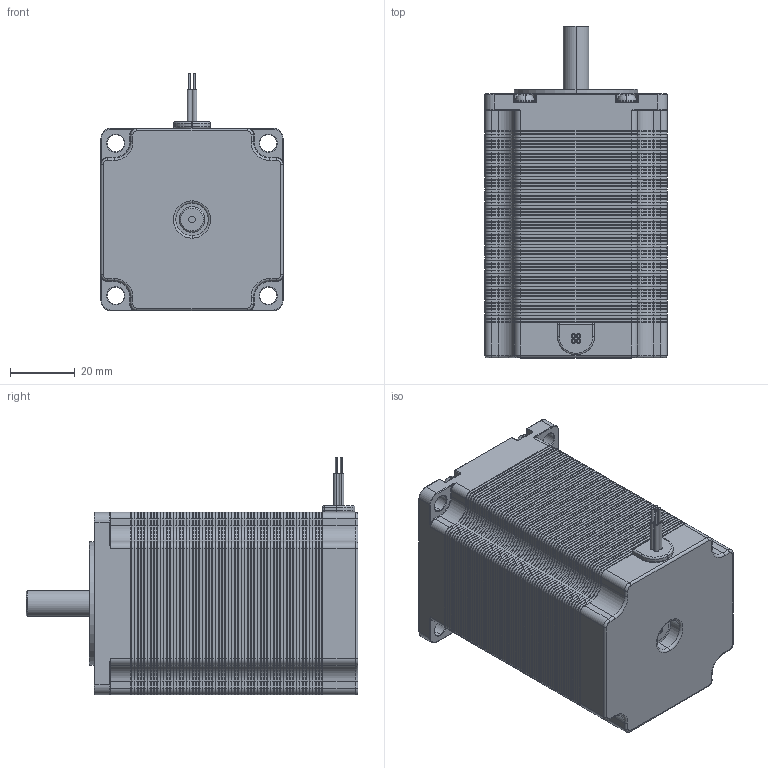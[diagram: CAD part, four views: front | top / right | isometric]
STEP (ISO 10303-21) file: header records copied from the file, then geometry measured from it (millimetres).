
FILE_DESCRIPTION (( 'STEP AP214' ), '1' );
FILE_NAME ('Nema 23 Stepper Motor length 82mm.STEP', '2017-12-10T23:26:51', ( '' ), ( '' ), 'SwSTEP 2.0', 'SolidWorks 2016', '' );
FILE_SCHEMA (( 'AUTOMOTIVE_DESIGN' ));
Length unit declared in the file: millimetre
Products named in the file (1): Nema 23 Stepper Motor length 82mm
Bounding box: 56.3 x 102.5 x 73.3 mm (x, y, z)
Volume: 235631 mm3; surface area: 366097 mm2
Topology: 75 solids, 75 shells, 4840 faces, 11000 edges, 6296 vertices
Faces by surface type: plane 2412, cone 1444, cylinder 870, torus 94, sphere 12, bspline 8
Entity records: 181376 total; most frequent: DIRECTION 23904, CARTESIAN_POINT 22565, ORIENTED_EDGE 21960, EDGE_CURVE 10980, AXIS2_PLACEMENT_3D 8163, VECTOR 7578, LINE 7578, VERTEX_POINT 6296
